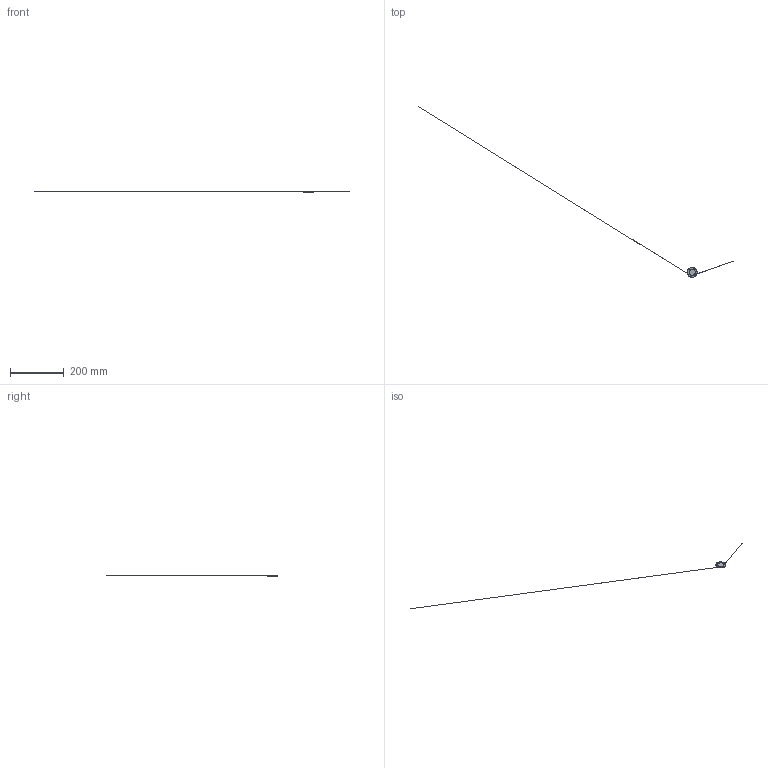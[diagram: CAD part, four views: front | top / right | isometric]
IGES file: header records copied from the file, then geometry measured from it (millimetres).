
Global section: file name: C:\Users\risknc\Google Drive\Drive\Mechanical Design\Temporary CAD folder\Alpha\Dev\Envplug\Neopixel Ring 12x\Adafruit neopixel ring.igs; native system: NX V9.0; preprocessor: SIEMENS PLM Software NX 9.0; date: 20140722.114713; units: millimetre
Bounding box: 1170.23 x 634.91 x 1.61 mm (x, y, z)
Surface area: 2575.4 mm2 (no closed solid volume)
Topology: 0 solids, 0 shells, 88 faces, 881 edges, 918 vertices
Faces by surface type: bspline 88
